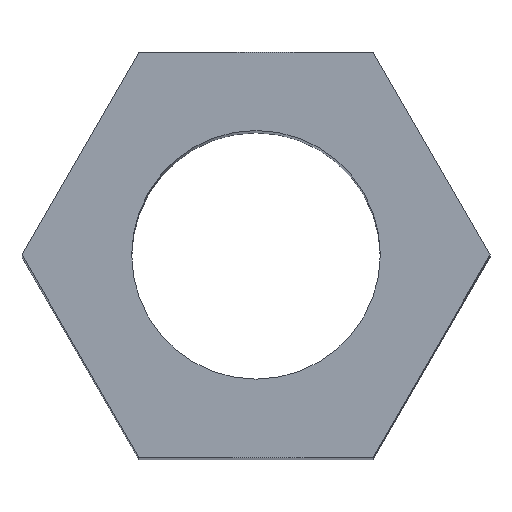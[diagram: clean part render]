
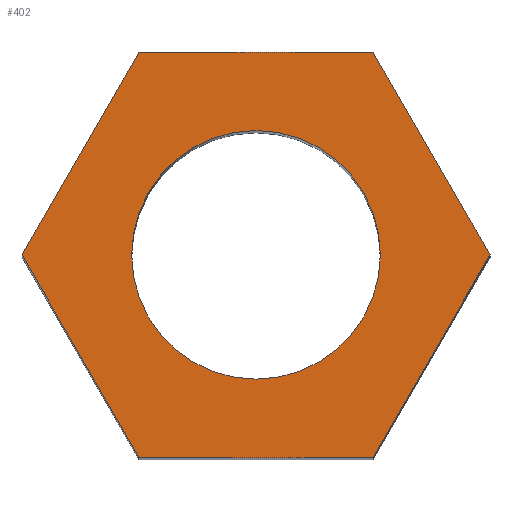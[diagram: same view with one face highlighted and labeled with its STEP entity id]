
A CAD part, top view. The second image highlights one B-rep face of the part: STEP entity #402.
In plain terms, the highlighted planar face has unit normal (0, 0, 1).
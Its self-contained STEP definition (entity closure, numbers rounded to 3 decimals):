
#24 = VERTEX_POINT('',#25);
#25 = CARTESIAN_POINT('',(-24.3,-17.5,18.002));
#32 = PLANE('',#33);
#33 = AXIS2_PLACEMENT_3D('',#34,#35,#36);
#34 = CARTESIAN_POINT('',(-24.3,-17.5,0.002));
#35 = DIRECTION('',(-0.866,-0.5,0.));
#36 = DIRECTION('',(-0.5,0.866,0.));
#44 = PLANE('',#45);
#45 = AXIS2_PLACEMENT_3D('',#46,#47,#48);
#46 = CARTESIAN_POINT('',(-25.9,-20.271,0.002));
#47 = DIRECTION('',(-0.866,0.5,0.));
#48 = DIRECTION('',(0.5,0.866,0.));
#56 = EDGE_CURVE('',#24,#57,#59,.T.);
#57 = VERTEX_POINT('',#58);
#58 = CARTESIAN_POINT('',(-25.9,-14.729,18.002));
#59 = SURFACE_CURVE('',#60,(#64,#71),.PCURVE_S1.);
#60 = LINE('',#61,#62);
#61 = CARTESIAN_POINT('',(-24.3,-17.5,18.002));
#62 = VECTOR('',#63,1.);
#63 = DIRECTION('',(-0.5,0.866,0.));
#64 = PCURVE('',#32,#65);
#65 = DEFINITIONAL_REPRESENTATION('',(#66),#70);
#66 = LINE('',#67,#68);
#67 = CARTESIAN_POINT('',(0.,-18.));
#68 = VECTOR('',#69,1.);
#69 = DIRECTION('',(1.,0.));
#70 = ( GEOMETRIC_REPRESENTATION_CONTEXT(2) 
PARAMETRIC_REPRESENTATION_CONTEXT() REPRESENTATION_CONTEXT('2D SPACE',''
  ) );
#71 = PCURVE('',#72,#77);
#72 = PLANE('',#73);
#73 = AXIS2_PLACEMENT_3D('',#74,#75,#76);
#74 = CARTESIAN_POINT('',(-27.5,-17.5,18.002));
#75 = DIRECTION('',(0.,0.,1.));
#76 = DIRECTION('',(1.,0.,-0.));
#77 = DEFINITIONAL_REPRESENTATION('',(#78),#82);
#78 = LINE('',#79,#80);
#79 = CARTESIAN_POINT('',(3.2,0.));
#80 = VECTOR('',#81,1.);
#81 = DIRECTION('',(-0.5,0.866));
#82 = ( GEOMETRIC_REPRESENTATION_CONTEXT(2) 
PARAMETRIC_REPRESENTATION_CONTEXT() REPRESENTATION_CONTEXT('2D SPACE',''
  ) );
#100 = PLANE('',#101);
#101 = AXIS2_PLACEMENT_3D('',#102,#103,#104);
#102 = CARTESIAN_POINT('',(-25.9,-14.729,0.002));
#103 = DIRECTION('',(0.,-1.,0.));
#104 = DIRECTION('',(-1.,0.,0.));
#144 = VERTEX_POINT('',#145);
#145 = CARTESIAN_POINT('',(-25.9,-20.271,18.002));
#159 = PLANE('',#160);
#160 = AXIS2_PLACEMENT_3D('',#161,#162,#163);
#161 = CARTESIAN_POINT('',(-29.1,-20.271,0.002));
#162 = DIRECTION('',(0.,1.,-0.));
#163 = DIRECTION('',(1.,0.,0.));
#171 = EDGE_CURVE('',#144,#24,#172,.T.);
#172 = SURFACE_CURVE('',#173,(#177,#184),.PCURVE_S1.);
#173 = LINE('',#174,#175);
#174 = CARTESIAN_POINT('',(-25.9,-20.271,18.002));
#175 = VECTOR('',#176,1.);
#176 = DIRECTION('',(0.5,0.866,0.));
#177 = PCURVE('',#44,#178);
#178 = DEFINITIONAL_REPRESENTATION('',(#179),#183);
#179 = LINE('',#180,#181);
#180 = CARTESIAN_POINT('',(0.,-18.));
#181 = VECTOR('',#182,1.);
#182 = DIRECTION('',(1.,0.));
#183 = ( GEOMETRIC_REPRESENTATION_CONTEXT(2) 
PARAMETRIC_REPRESENTATION_CONTEXT() REPRESENTATION_CONTEXT('2D SPACE',''
  ) );
#184 = PCURVE('',#72,#185);
#185 = DEFINITIONAL_REPRESENTATION('',(#186),#190);
#186 = LINE('',#187,#188);
#187 = CARTESIAN_POINT('',(1.6,-2.771));
#188 = VECTOR('',#189,1.);
#189 = DIRECTION('',(0.5,0.866));
#190 = ( GEOMETRIC_REPRESENTATION_CONTEXT(2) 
PARAMETRIC_REPRESENTATION_CONTEXT() REPRESENTATION_CONTEXT('2D SPACE',''
  ) );
#218 = EDGE_CURVE('',#57,#219,#221,.T.);
#219 = VERTEX_POINT('',#220);
#220 = CARTESIAN_POINT('',(-29.1,-14.729,18.002));
#221 = SURFACE_CURVE('',#222,(#226,#233),.PCURVE_S1.);
#222 = LINE('',#223,#224);
#223 = CARTESIAN_POINT('',(-25.9,-14.729,18.002));
#224 = VECTOR('',#225,1.);
#225 = DIRECTION('',(-1.,0.,0.));
#226 = PCURVE('',#100,#227);
#227 = DEFINITIONAL_REPRESENTATION('',(#228),#232);
#228 = LINE('',#229,#230);
#229 = CARTESIAN_POINT('',(0.,-18.));
#230 = VECTOR('',#231,1.);
#231 = DIRECTION('',(1.,0.));
#232 = ( GEOMETRIC_REPRESENTATION_CONTEXT(2) 
PARAMETRIC_REPRESENTATION_CONTEXT() REPRESENTATION_CONTEXT('2D SPACE',''
  ) );
#233 = PCURVE('',#72,#234);
#234 = DEFINITIONAL_REPRESENTATION('',(#235),#239);
#235 = LINE('',#236,#237);
#236 = CARTESIAN_POINT('',(1.6,2.771));
#237 = VECTOR('',#238,1.);
#238 = DIRECTION('',(-1.,0.));
#239 = ( GEOMETRIC_REPRESENTATION_CONTEXT(2) 
PARAMETRIC_REPRESENTATION_CONTEXT() REPRESENTATION_CONTEXT('2D SPACE',''
  ) );
#257 = PLANE('',#258);
#258 = AXIS2_PLACEMENT_3D('',#259,#260,#261);
#259 = CARTESIAN_POINT('',(-29.1,-14.729,0.002));
#260 = DIRECTION('',(0.866,-0.5,0.));
#261 = DIRECTION('',(-0.5,-0.866,0.));
#334 = PLANE('',#335);
#335 = AXIS2_PLACEMENT_3D('',#336,#337,#338);
#336 = CARTESIAN_POINT('',(-30.7,-17.5,0.002));
#337 = DIRECTION('',(0.866,0.5,-0.));
#338 = DIRECTION('',(0.5,-0.866,0.));
#391 = CYLINDRICAL_SURFACE('',#392,1.7);
#392 = AXIS2_PLACEMENT_3D('',#393,#394,#395);
#393 = CARTESIAN_POINT('',(-27.5,-17.5,-0.998));
#394 = DIRECTION('',(-0.,-0.,-1.));
#395 = DIRECTION('',(1.,0.,0.));
#402 = ADVANCED_FACE('',(#403,#475),#72,.T.);
#403 = FACE_BOUND('',#404,.T.);
#404 = EDGE_LOOP('',(#405,#406,#407,#430,#453,#474));
#405 = ORIENTED_EDGE('',*,*,#56,.T.);
#406 = ORIENTED_EDGE('',*,*,#218,.T.);
#407 = ORIENTED_EDGE('',*,*,#408,.T.);
#408 = EDGE_CURVE('',#219,#409,#411,.T.);
#409 = VERTEX_POINT('',#410);
#410 = CARTESIAN_POINT('',(-30.7,-17.5,18.002));
#411 = SURFACE_CURVE('',#412,(#416,#423),.PCURVE_S1.);
#412 = LINE('',#413,#414);
#413 = CARTESIAN_POINT('',(-29.1,-14.729,18.002));
#414 = VECTOR('',#415,1.);
#415 = DIRECTION('',(-0.5,-0.866,0.));
#416 = PCURVE('',#72,#417);
#417 = DEFINITIONAL_REPRESENTATION('',(#418),#422);
#418 = LINE('',#419,#420);
#419 = CARTESIAN_POINT('',(-1.6,2.771));
#420 = VECTOR('',#421,1.);
#421 = DIRECTION('',(-0.5,-0.866));
#422 = ( GEOMETRIC_REPRESENTATION_CONTEXT(2) 
PARAMETRIC_REPRESENTATION_CONTEXT() REPRESENTATION_CONTEXT('2D SPACE',''
  ) );
#423 = PCURVE('',#257,#424);
#424 = DEFINITIONAL_REPRESENTATION('',(#425),#429);
#425 = LINE('',#426,#427);
#426 = CARTESIAN_POINT('',(0.,-18.));
#427 = VECTOR('',#428,1.);
#428 = DIRECTION('',(1.,0.));
#429 = ( GEOMETRIC_REPRESENTATION_CONTEXT(2) 
PARAMETRIC_REPRESENTATION_CONTEXT() REPRESENTATION_CONTEXT('2D SPACE',''
  ) );
#430 = ORIENTED_EDGE('',*,*,#431,.T.);
#431 = EDGE_CURVE('',#409,#432,#434,.T.);
#432 = VERTEX_POINT('',#433);
#433 = CARTESIAN_POINT('',(-29.1,-20.271,18.002));
#434 = SURFACE_CURVE('',#435,(#439,#446),.PCURVE_S1.);
#435 = LINE('',#436,#437);
#436 = CARTESIAN_POINT('',(-30.7,-17.5,18.002));
#437 = VECTOR('',#438,1.);
#438 = DIRECTION('',(0.5,-0.866,0.));
#439 = PCURVE('',#72,#440);
#440 = DEFINITIONAL_REPRESENTATION('',(#441),#445);
#441 = LINE('',#442,#443);
#442 = CARTESIAN_POINT('',(-3.2,0.));
#443 = VECTOR('',#444,1.);
#444 = DIRECTION('',(0.5,-0.866));
#445 = ( GEOMETRIC_REPRESENTATION_CONTEXT(2) 
PARAMETRIC_REPRESENTATION_CONTEXT() REPRESENTATION_CONTEXT('2D SPACE',''
  ) );
#446 = PCURVE('',#334,#447);
#447 = DEFINITIONAL_REPRESENTATION('',(#448),#452);
#448 = LINE('',#449,#450);
#449 = CARTESIAN_POINT('',(0.,-18.));
#450 = VECTOR('',#451,1.);
#451 = DIRECTION('',(1.,0.));
#452 = ( GEOMETRIC_REPRESENTATION_CONTEXT(2) 
PARAMETRIC_REPRESENTATION_CONTEXT() REPRESENTATION_CONTEXT('2D SPACE',''
  ) );
#453 = ORIENTED_EDGE('',*,*,#454,.T.);
#454 = EDGE_CURVE('',#432,#144,#455,.T.);
#455 = SURFACE_CURVE('',#456,(#460,#467),.PCURVE_S1.);
#456 = LINE('',#457,#458);
#457 = CARTESIAN_POINT('',(-29.1,-20.271,18.002));
#458 = VECTOR('',#459,1.);
#459 = DIRECTION('',(1.,0.,0.));
#460 = PCURVE('',#72,#461);
#461 = DEFINITIONAL_REPRESENTATION('',(#462),#466);
#462 = LINE('',#463,#464);
#463 = CARTESIAN_POINT('',(-1.6,-2.771));
#464 = VECTOR('',#465,1.);
#465 = DIRECTION('',(1.,0.));
#466 = ( GEOMETRIC_REPRESENTATION_CONTEXT(2) 
PARAMETRIC_REPRESENTATION_CONTEXT() REPRESENTATION_CONTEXT('2D SPACE',''
  ) );
#467 = PCURVE('',#159,#468);
#468 = DEFINITIONAL_REPRESENTATION('',(#469),#473);
#469 = LINE('',#470,#471);
#470 = CARTESIAN_POINT('',(0.,-18.));
#471 = VECTOR('',#472,1.);
#472 = DIRECTION('',(1.,0.));
#473 = ( GEOMETRIC_REPRESENTATION_CONTEXT(2) 
PARAMETRIC_REPRESENTATION_CONTEXT() REPRESENTATION_CONTEXT('2D SPACE',''
  ) );
#474 = ORIENTED_EDGE('',*,*,#171,.T.);
#475 = FACE_BOUND('',#476,.T.);
#476 = EDGE_LOOP('',(#477));
#477 = ORIENTED_EDGE('',*,*,#478,.T.);
#478 = EDGE_CURVE('',#479,#479,#481,.T.);
#479 = VERTEX_POINT('',#480);
#480 = CARTESIAN_POINT('',(-25.8,-17.5,18.002));
#481 = SURFACE_CURVE('',#482,(#487,#498),.PCURVE_S1.);
#482 = CIRCLE('',#483,1.7);
#483 = AXIS2_PLACEMENT_3D('',#484,#485,#486);
#484 = CARTESIAN_POINT('',(-27.5,-17.5,18.002));
#485 = DIRECTION('',(0.,0.,-1.));
#486 = DIRECTION('',(1.,0.,0.));
#487 = PCURVE('',#72,#488);
#488 = DEFINITIONAL_REPRESENTATION('',(#489),#497);
#489 = ( BOUNDED_CURVE() B_SPLINE_CURVE(2,(#490,#491,#492,#493,#494,#495
,#496),.UNSPECIFIED.,.T.,.F.) B_SPLINE_CURVE_WITH_KNOTS((1,2,2,2,2,1),(
    -2.094,0.,2.094,4.189,6.283,
8.378),.UNSPECIFIED.) CURVE() GEOMETRIC_REPRESENTATION_ITEM() 
RATIONAL_B_SPLINE_CURVE((1.,0.5,1.,0.5,1.,0.5,1.)) REPRESENTATION_ITEM(
  '') );
#490 = CARTESIAN_POINT('',(1.7,0.));
#491 = CARTESIAN_POINT('',(1.7,-2.944));
#492 = CARTESIAN_POINT('',(-0.85,-1.472));
#493 = CARTESIAN_POINT('',(-3.4,0.));
#494 = CARTESIAN_POINT('',(-0.85,1.472));
#495 = CARTESIAN_POINT('',(1.7,2.944));
#496 = CARTESIAN_POINT('',(1.7,0.));
#497 = ( GEOMETRIC_REPRESENTATION_CONTEXT(2) 
PARAMETRIC_REPRESENTATION_CONTEXT() REPRESENTATION_CONTEXT('2D SPACE',''
  ) );
#498 = PCURVE('',#391,#499);
#499 = DEFINITIONAL_REPRESENTATION('',(#500),#504);
#500 = LINE('',#501,#502);
#501 = CARTESIAN_POINT('',(-6.283,-19.));
#502 = VECTOR('',#503,1.);
#503 = DIRECTION('',(1.,-0.));
#504 = ( GEOMETRIC_REPRESENTATION_CONTEXT(2) 
PARAMETRIC_REPRESENTATION_CONTEXT() REPRESENTATION_CONTEXT('2D SPACE',''
  ) );
